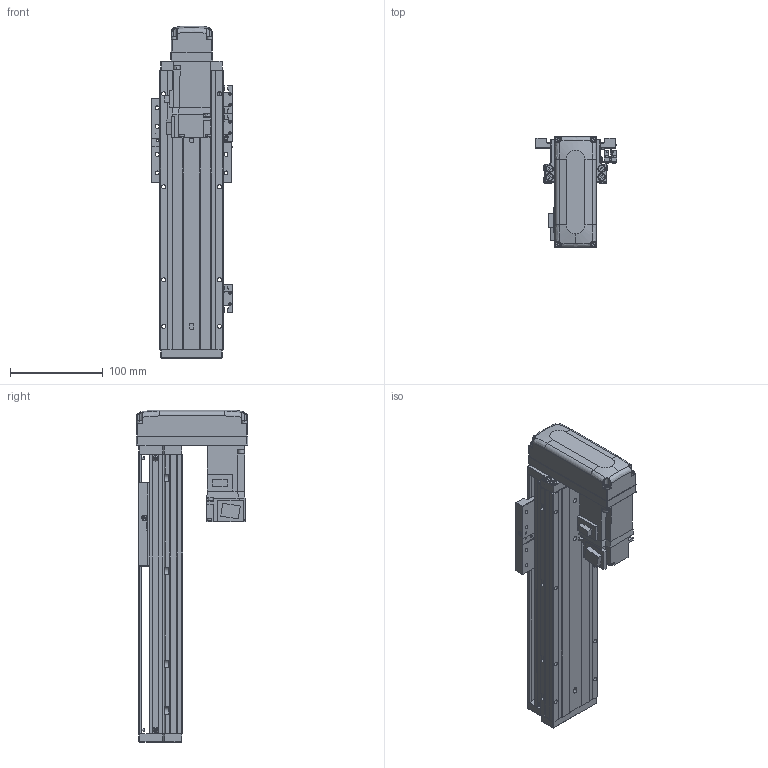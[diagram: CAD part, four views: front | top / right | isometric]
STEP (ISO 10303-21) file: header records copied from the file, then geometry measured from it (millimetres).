
FILE_DESCRIPTION (( 'STEP AP203' ), '1' );
FILE_NAME ('KTHAL60-150-BM-M10-C4L.step', '2022-03-19T08:40:21', ( '微软用户' ), ( '微软中国' ), 'SwSTEP 2.0', 'SolidWorks 2020', '' );
FILE_SCHEMA (( 'CONFIG_CONTROL_DESIGN' ));
Length unit declared in the file: millimetre
Products named in the file (18): GBT 70.1-M4×16; GBT 70.1-M3×15; KTHA60-005; GBT77-2000M3-3; KTHAL60-150-BM-M10-C4L; GB¨uT 70.2-M3¡Á5_M3¡Á6; GBT 70.1-M3℅6; GBT 70.3-M3℅6; CTHA60-016; EE_SX911P_R; HG-KR13（三菱）; KTHA60-001_300; CTHA60-017; CTHA60-015-2_CTHA60-015-2; KTHLA60-002; CTHA60-021; CTHA60-033; KTHA60-004
Assembly tree (51 placements, depth 2):
  KTHAL60-150-BM-M10-C4L
    KTHA60-001_300
    KTHLA60-002
    KTHA60-004
    KTHA60-005
    GB¨uT 70.2-M3¡Á5_M3¡Á6  x5
    GBT 70.3-M3℅6  x4
    EE_SX911P_R  x3
    CTHA60-017  x3
    CTHA60-021  x2
    GBT 70.1-M4×16  x10
    GBT77-2000M3-3  x6
    GBT 70.1-M3℅6  x6
    CTHA60-016
    HG-KR13（三菱）
    CTHA60-015-2_CTHA60-015-2
    CTHA60-033
    GBT 70.1-M3×15  x4
Bounding box: 87.82 x 120 x 357 mm (x, y, z)
Volume: 960979.1 mm3; surface area: 236382.3 mm2
Topology: 54 solids, 54 shells, 2235 faces, 5275 edges, 3233 vertices
Faces by surface type: plane 1276, cylinder 541, cone 280, torus 98, bspline 26, sphere 14
Entity records: 38055 total; most frequent: CARTESIAN_POINT 7224, DIRECTION 5913, ORIENTED_EDGE 5694, EDGE_CURVE 2847, AXIS2_PLACEMENT_3D 1989, VECTOR 1935, LINE 1935, VERTEX_POINT 1782
